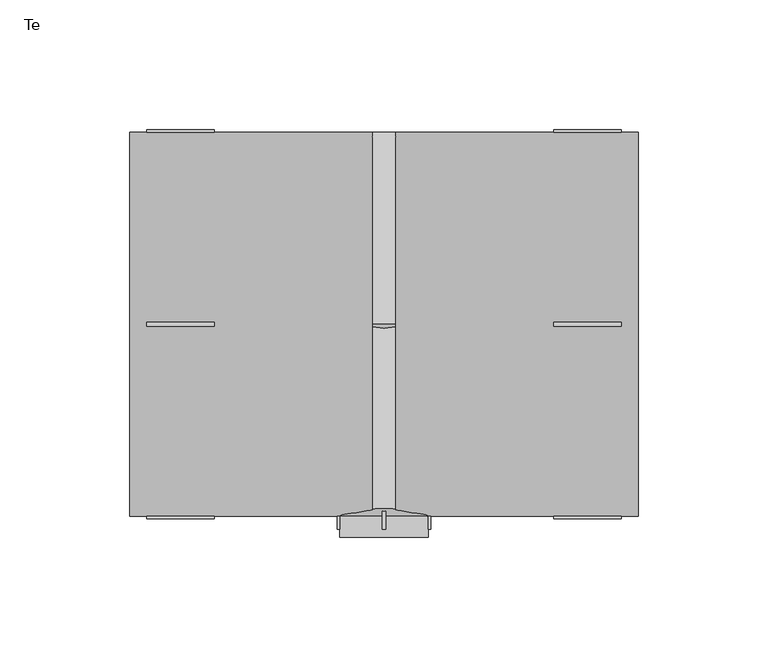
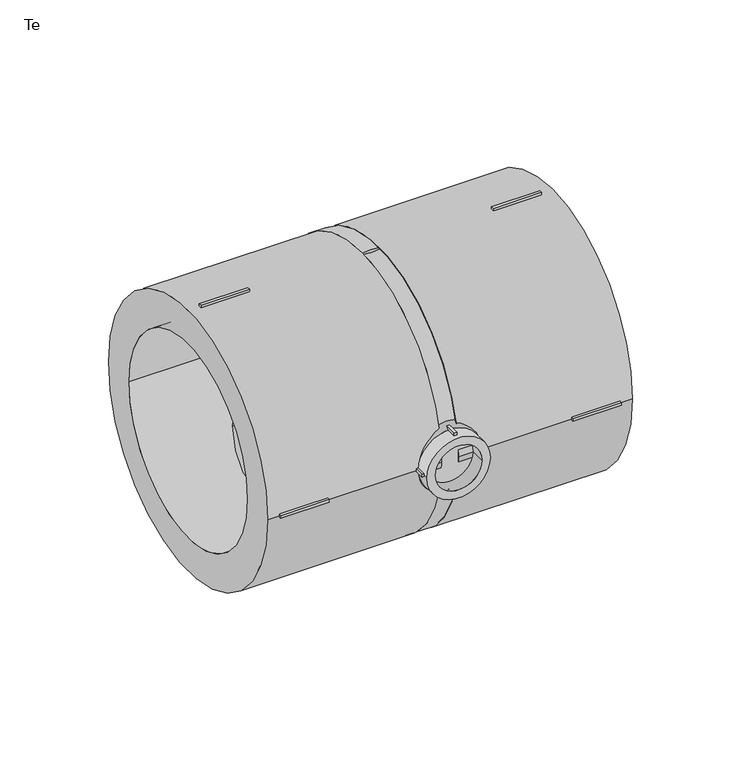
"""IFC4 building model written with IfcOpenShell, lengths in millimetres: pipe fitting geometry, EGB_VASEN_ PPR_Te WXR300_Te reducida WXR310 : Te."""

from ifc_helpers import new_model, si_unit, point, frame, origin, origin_2d, place, context, project, spatial, polyline, circle_curve, trimmed, segment, composite_curve, outline, extrude, source, transform, mapped, element, save
from ifc_brep_helpers import plane_surface, revolved_surface, advanced_brep


def te_8ba7b2b7(model_context):
    return source(origin(), model_context, "Body", "SolidModel", [
        extrude(outline(polyline([(-0.75, -67.0), (0.75, -67.0), (0.75, -79.0), (-0.75, -79.0), (-0.75, -67.0)])), frame((0.0, 0.0, 16.0), z_axis=(0.0, 0.0, 1.0), x_axis=(1.0, 0.0, 0.0)), (0.0, 0.0, 1.0), 2.0),
        extrude(outline(polyline([(-0.75, -67.0), (0.75, -67.0), (0.75, -79.0), (-0.75, -79.0), (-0.75, -67.0)])), frame((0.0, 0.0, -18.0), z_axis=(0.0, 0.0, 1.0), x_axis=(1.0, 0.0, 0.0)), (0.0, 0.0, 1.0), 2.0),
        extrude(outline(polyline([(16.0, -67.0), (18.0, -67.0), (18.0, -79.0), (16.0, -79.0), (16.0, -67.0)])), frame((0.0, 0.0, -0.75), z_axis=(0.0, 0.0, 1.0), x_axis=(1.0, 0.0, 0.0)), (0.0, 0.0, 1.0), 1.5),
        extrude(outline(polyline([(-18.0, -67.0), (-16.0, -67.0), (-16.0, -79.0), (-18.0, -79.0), (-18.0, -67.0)])), frame((0.0, 0.0, -0.75), z_axis=(0.0, 0.0, 1.0), x_axis=(1.0, 0.0, 0.0)), (0.0, 0.0, 1.0), 1.5),
        extrude(outline(polyline([(65.5, -0.75), (65.5, 0.75), (91.5, 0.75), (91.5, -0.75), (65.5, -0.75)])), frame((0.0, 0.0, 73.0), z_axis=(0.0, 0.0, 1.0), x_axis=(1.0, 0.0, 0.0)), (0.0, 0.0, 1.0), 2.0),
        extrude(outline(polyline([(65.5, -0.75), (65.5, 0.75), (91.5, 0.75), (91.5, -0.75), (65.5, -0.75)])), frame((0.0, 0.0, -75.0), z_axis=(0.0, 0.0, 1.0), x_axis=(1.0, 0.0, 0.0)), (0.0, 0.0, 1.0), 2.0),
        extrude(outline(polyline([(65.5, 73.0), (65.5, 75.0), (91.5, 75.0), (91.5, 73.0), (65.5, 73.0)])), frame((0.0, 0.0, -0.75), z_axis=(0.0, 0.0, 1.0), x_axis=(1.0, 0.0, 0.0)), (0.0, 0.0, 1.0), 1.5),
        extrude(outline(polyline([(65.5, -75.0), (65.5, -73.0), (91.5, -73.0), (91.5, -75.0), (65.5, -75.0)])), frame((0.0, 0.0, -0.75), z_axis=(0.0, 0.0, 1.0), x_axis=(1.0, 0.0, 0.0)), (0.0, 0.0, 1.0), 1.5),
        extrude(outline(polyline([(-65.5, 0.75), (-65.5, -0.75), (-91.5, -0.75), (-91.5, 0.75), (-65.5, 0.75)])), frame((0.0, 0.0, 73.0), z_axis=(0.0, 0.0, 1.0), x_axis=(1.0, 0.0, 0.0)), (0.0, 0.0, 1.0), 2.0),
        extrude(outline(polyline([(-65.5, 0.75), (-65.5, -0.75), (-91.5, -0.75), (-91.5, 0.75), (-65.5, 0.75)])), frame((0.0, 0.0, -75.0), z_axis=(0.0, 0.0, 1.0), x_axis=(1.0, 0.0, 0.0)), (0.0, 0.0, 1.0), 2.0),
        extrude(outline(polyline([(-65.5, 75.0), (-65.5, 73.0), (-91.5, 73.0), (-91.5, 75.0), (-65.5, 75.0)])), frame((0.0, 0.0, -0.75), z_axis=(0.0, 0.0, 1.0), x_axis=(1.0, 0.0, 0.0)), (0.0, 0.0, 1.0), 1.5),
        extrude(outline(polyline([(-65.5, -73.0), (-65.5, -75.0), (-91.5, -75.0), (-91.5, -73.0), (-65.5, -73.0)])), frame((0.0, 0.0, -0.75), z_axis=(0.0, 0.0, 1.0), x_axis=(1.0, 0.0, 0.0)), (0.0, 0.0, 1.0), 1.5),
        extrude(outline(composite_curve([segment(trimmed(circle_curve(origin_2d(), 17.0), [point((0.0, 17.0))], [point((0.0, -17.0))], False, "CARTESIAN"), True, "CONTINUOUS"), segment(trimmed(circle_curve(origin_2d(), 17.0), [point((0.0, -17.0))], [point((0.0, 17.0))], False, "CARTESIAN"), True, "CONTINUOUS")], self_intersect=False), holes=[composite_curve([segment(trimmed(circle_curve(origin_2d(), 12.5), [point((0.0, 12.5))], [point((0.0, -12.5))], True, "CARTESIAN"), True, "CONTINUOUS"), segment(trimmed(circle_curve(origin_2d(), 12.5), [point((0.0, -12.5))], [point((0.0, 12.5))], True, "CARTESIAN"), True, "CONTINUOUS")], self_intersect=False)]), frame((0.0, -82.0, 0.0), z_axis=(0.0, 1.0, 0.0), x_axis=(0.0, 0.0, 1.0)), (0.0, 0.0, 1.0), 8.0),
        extrude(outline(composite_curve([segment(trimmed(circle_curve(origin_2d(), 74.0), [point((-74.0, 0.0))], [point((74.0, 0.0))], False, "CARTESIAN"), True, "CONTINUOUS"), segment(trimmed(circle_curve(origin_2d(), 74.0), [point((74.0, 0.0))], [point((-74.0, 0.0))], False, "CARTESIAN"), True, "CONTINUOUS")], self_intersect=False), holes=[composite_curve([segment(trimmed(circle_curve(origin_2d(), 55.0), [point((-55.0, 0.0))], [point((55.0, 0.0))], True, "CARTESIAN"), True, "CONTINUOUS"), segment(trimmed(circle_curve(origin_2d(), 55.0), [point((55.0, 0.0))], [point((-55.0, 0.0))], True, "CARTESIAN"), True, "CONTINUOUS")], self_intersect=False)]), frame((4.56, 0.0, 0.0), z_axis=(1.0, 0.0, 0.0), x_axis=(0.0, 1.0, 0.0)), (0.0, 0.0, 1.0), 93.44),
        extrude(outline(composite_curve([segment(trimmed(circle_curve(origin_2d(), 74.0), [point((-74.0, 0.0))], [point((74.0, 0.0))], False, "CARTESIAN"), True, "CONTINUOUS"), segment(trimmed(circle_curve(origin_2d(), 74.0), [point((74.0, 0.0))], [point((-74.0, 0.0))], False, "CARTESIAN"), True, "CONTINUOUS")], self_intersect=False), holes=[composite_curve([segment(trimmed(circle_curve(origin_2d(), 55.0), [point((-55.0, 0.0))], [point((55.0, 0.0))], True, "CARTESIAN"), True, "CONTINUOUS"), segment(trimmed(circle_curve(origin_2d(), 55.0), [point((55.0, 0.0))], [point((-55.0, 0.0))], True, "CARTESIAN"), True, "CONTINUOUS")], self_intersect=False)]), frame((-98.0, 0.0, 0.0), z_axis=(1.0, 0.0, 0.0), x_axis=(0.0, 1.0, 0.0)), (0.0, 0.0, 1.0), 93.44),
        advanced_brep(
        [(74.0, 0.0, 0.0), (-74.0, 0.0, 0.0), (17.0, -74.0, 0.0), (-17.0, -74.0, 0.0)],
        [
            (0, 1, circle_curve(frame((0.0, 0.0, 0.0), z_axis=(0.0, 1.0, 0.0), x_axis=(1.0, 0.0, 0.0)), 74.0)),
            (1, 0, circle_curve(frame((0.0, 0.0, 0.0), z_axis=(0.0, 1.0, 0.0), x_axis=(-1.0, 0.0, 0.0)), 74.0)),
            (2, 3, circle_curve(frame((0.0, -74.0, 0.0), z_axis=(0.0, -1.0, 0.0), x_axis=(-1.0, 0.0, 0.0)), 17.0)),
            (3, 2, circle_curve(frame((0.0, -74.0, 0.0), z_axis=(0.0, -1.0, 0.0), x_axis=(1.0, 0.0, 0.0)), 17.0)),
            (3, 1),
            (0, 2),
        ],
        [
            plane_surface(frame((0.0, 0.0, 0.0), z_axis=(0.0, 1.0, 0.0), x_axis=(0.0, 0.0, -1.0))),
            plane_surface(frame((0.0, -74.0, 0.0), z_axis=(0.0, -1.0, 0.0), x_axis=(0.0, 0.0, -1.0))),
            revolved_surface(polyline([(-16.99999997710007, -74.0, 0.0), (-74.0, 0.0, 0.0)]), (0.0, -96.0701754, 0.0), (0.0, 1.0, 0.0)),
            revolved_surface(polyline([(16.99999997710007, -74.0, 0.0), (74.0, 0.0, 0.0)]), (0.0, -96.0701754, 0.0), (0.0, 1.0, 0.0)),
        ],
        [
            (0, [[1, 2]]),
            (1, [[3, 4]]),
            (2, [[-4, 5, -1, 6]]),
            (3, [[-3, -6, -2, -5]]),
        ],
    ),
        extrude(outline(composite_curve([segment(trimmed(circle_curve(origin_2d(), 74.0), [point((-74.0, 0.0))], [point((74.0, 0.0))], False, "CARTESIAN"), True, "CONTINUOUS"), segment(trimmed(circle_curve(origin_2d(), 74.0), [point((74.0, 0.0))], [point((-74.0, 0.0))], False, "CARTESIAN"), True, "CONTINUOUS")], self_intersect=False)), frame((-4.56, 0.0, 0.0), z_axis=(1.0, 0.0, 0.0), x_axis=(0.0, 1.0, 0.0)), (0.0, 0.0, 1.0), 9.12),
    ])


if __name__ == "__main__":
    model = new_model("IFC4")
    model_context = context("Model", 3, world=origin())
    ifc_project = project(units=[si_unit("LENGTHUNIT", "METRE", prefix="MILLI")], contexts=[model_context])
    site = spatial("IfcSite", under=ifc_project)
    building = spatial("IfcBuilding", under=site)
    placement = place(None, origin())
    te_shape = te_8ba7b2b7(model_context)
    element("IfcPipeFitting", 1, ObjectType="EGB_VASEN_ PPR_Te WXR300_Te reducida WXR310 : Te", at=placement, inside=building, context=model_context, shape_type="MappedRepresentation", body=[
        mapped(te_shape, transform((0.0, 0.0, 0.0), x_axis=(1.0, 0.0, 0.0), y_axis=(0.0, 1.0, 0.0), z_axis=(0.0, 0.0, 1.0))),
    ])
    save(model, "model.ifc")
